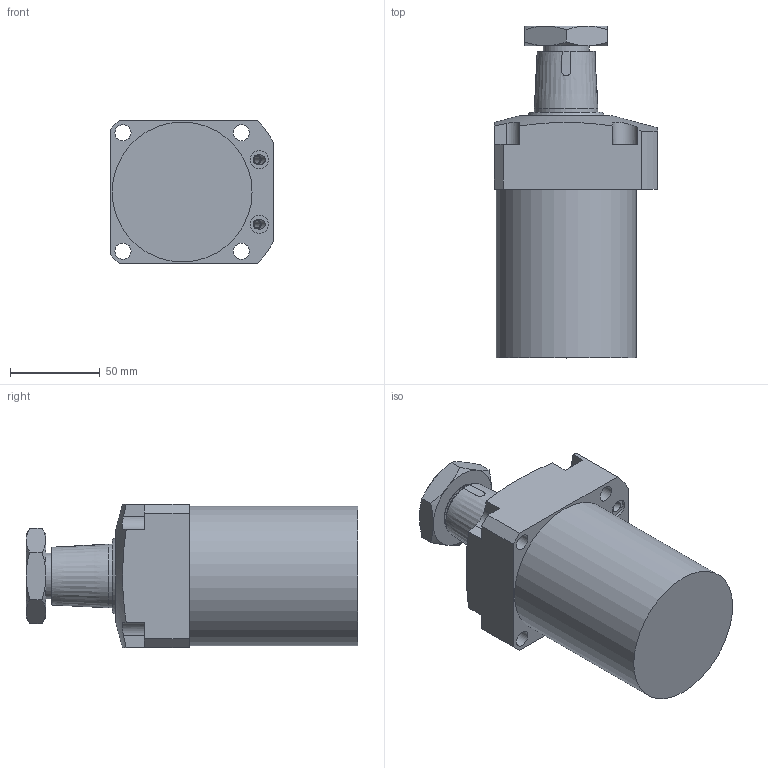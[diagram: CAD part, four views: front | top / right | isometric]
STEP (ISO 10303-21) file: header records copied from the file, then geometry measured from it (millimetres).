
FILE_DESCRIPTION( ( '' ), '1' );
FILE_NAME( 'W:/Catalogue/JF6H/JF6H65-33/JF6H65-33.stp', '2008-05-26T01:02:37', ( '機械事業部産業機器グループ' ), ( '豊和工業株式会社' ), 'XStep 1.0', ' ', ' ' );
FILE_SCHEMA( ( 'CONFIG_CONTROL_DESIGN' ) );
Length unit declared in the file: millimetre
Products named in the file (5): Assem1; 1; 2; 3; 4
Bounding box: 91 x 185 x 80 mm (x, y, z)
Surface area: 227662.2 mm2
Topology: 9 solids, 13 shells, 296 faces, 671 edges, 429 vertices
Faces by surface type: plane 162, cylinder 70, cone 60, torus 2, sphere 2
Full cylindrical faces by diameter (mm): 2 x2, 4 x4, 5.5 x4, 9 x8, 10 x6, 11 x4, 25.5 x2, 28 x4, 35.5 x4, 38 x2, 42.5 x2, 47.5 x4, 65 x6, 70 x2, 78 x2
Entity records: 4194 total; most frequent: CARTESIAN_POINT 1101, DIRECTION 598, ORIENTED_EDGE 500, EDGE_CURVE 250, AXIS2_PLACEMENT_3D 249, EDGE_LOOP 218, VERTEX_POINT 186, FACE_OUTER_BOUND 169
